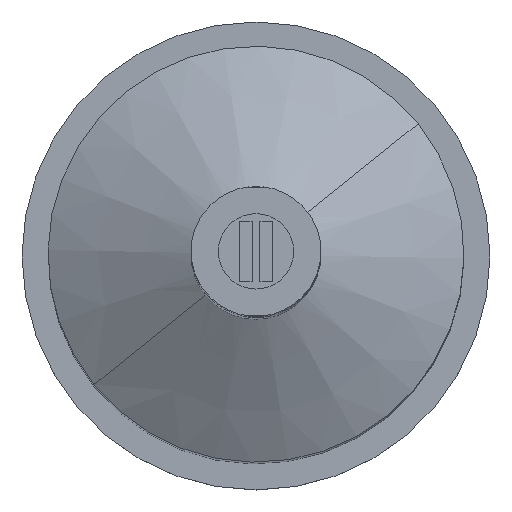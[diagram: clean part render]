
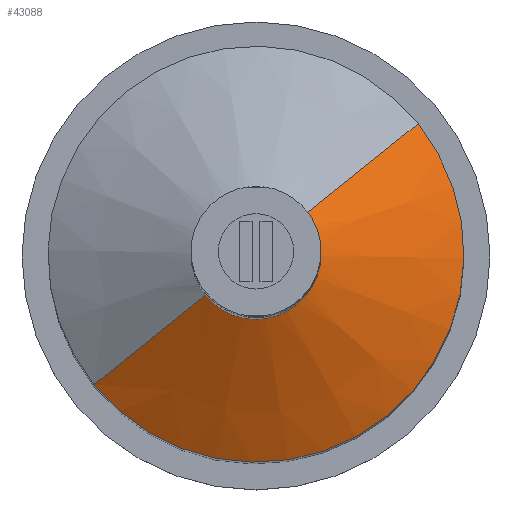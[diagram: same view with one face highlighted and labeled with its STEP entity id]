
A CAD part, top view. The second image highlights one B-rep face of the part: STEP entity #43088.
In plain terms, the highlighted conical face has half-angle 62 degrees and reference radius 2.358 mm.
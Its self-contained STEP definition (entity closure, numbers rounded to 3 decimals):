
#31592 = CONICAL_SURFACE ( 'NONE', #149656, 2.358, 1.082 ) ;
#31597 = FACE_OUTER_BOUND ( 'NONE', #311842, .T. ) ;
#43088 = ADVANCED_FACE ( 'NONE', ( #31597 ), #31592, .T. ) ;
#50103 = ORIENTED_EDGE ( 'NONE', *, *, #181447, .F. ) ;
#50137 = ORIENTED_EDGE ( 'NONE', *, *, #181415, .F. ) ;
#50164 = ORIENTED_EDGE ( 'NONE', *, *, #194971, .T. ) ;
#51026 = ORIENTED_EDGE ( 'NONE', *, *, #194969, .F. ) ;
#105312 = CARTESIAN_POINT ( 'NONE',  ( 1.875, 1.66, -40. ) ) ;
#130424 = AXIS2_PLACEMENT_3D ( 'NONE', #230185, #230187, #230189 ) ;
#130943 = CARTESIAN_POINT ( 'NONE',  ( -1.798, -1.297, -40. ) ) ;
#131081 = CARTESIAN_POINT ( 'NONE',  ( -6.194, -4.835, -43. ) ) ;
#131221 = CARTESIAN_POINT ( 'NONE',  ( 6.271, 5.197, -43. ) ) ;
#149656 = AXIS2_PLACEMENT_3D ( 'NONE', #218853, #218838, #218836 ) ;
#170606 = VERTEX_POINT ( 'NONE', #105312 ) ;
#171429 = VERTEX_POINT ( 'NONE', #130943 ) ;
#171567 = VERTEX_POINT ( 'NONE', #131081 ) ;
#171705 = VERTEX_POINT ( 'NONE', #131221 ) ;
#181415 = EDGE_CURVE ( 'NONE', #170606, #171705, #234650, .T. ) ;
#181447 = EDGE_CURVE ( 'NONE', #171429, #170606, #234834, .T. ) ;
#188499 = CARTESIAN_POINT ( 'NONE',  ( 0.038, 0.181, -43. ) ) ;
#188501 = DIRECTION ( 'NONE',  ( 0., 0., -1. ) ) ;
#188502 = DIRECTION ( 'NONE',  ( 0.779, 0.627, 0. ) ) ;
#188503 = CARTESIAN_POINT ( 'NONE',  ( -1.798, -1.297, -40. ) ) ;
#188505 = DIRECTION ( 'NONE',  ( -0.688, -0.554, -0.469 ) ) ;
#194969 = EDGE_CURVE ( 'NONE', #171705, #171567, #212585, .T. ) ;
#194971 = EDGE_CURVE ( 'NONE', #171429, #171567, #212574, .T. ) ;
#212574 = LINE ( 'NONE', #188503, #212576 ) ;
#212576 = VECTOR ( 'NONE', #188505, 1000. ) ;
#212585 = CIRCLE ( 'NONE', #261284, 8. ) ;
#218836 = DIRECTION ( 'NONE',  ( -0.779, -0.627, 0. ) ) ;
#218838 = DIRECTION ( 'NONE',  ( 0., 0., -1. ) ) ;
#218853 = CARTESIAN_POINT ( 'NONE',  ( 0.038, 0.181, -40. ) ) ;
#229932 = CARTESIAN_POINT ( 'NONE',  ( 1.875, 1.66, -40. ) ) ;
#229935 = DIRECTION ( 'NONE',  ( 0.688, 0.554, -0.469 ) ) ;
#230185 = CARTESIAN_POINT ( 'NONE',  ( 0.038, 0.181, -40. ) ) ;
#230187 = DIRECTION ( 'NONE',  ( 0., 0., 1. ) ) ;
#230189 = DIRECTION ( 'NONE',  ( 0.779, 0.627, 0. ) ) ;
#234638 = VECTOR ( 'NONE', #229935, 1000. ) ;
#234650 = LINE ( 'NONE', #229932, #234638 ) ;
#234834 = CIRCLE ( 'NONE', #130424, 2.358 ) ;
#261284 = AXIS2_PLACEMENT_3D ( 'NONE', #188499, #188501, #188502 ) ;
#311842 = EDGE_LOOP ( 'NONE', ( #50137, #50103, #50164, #51026 ) ) ;
